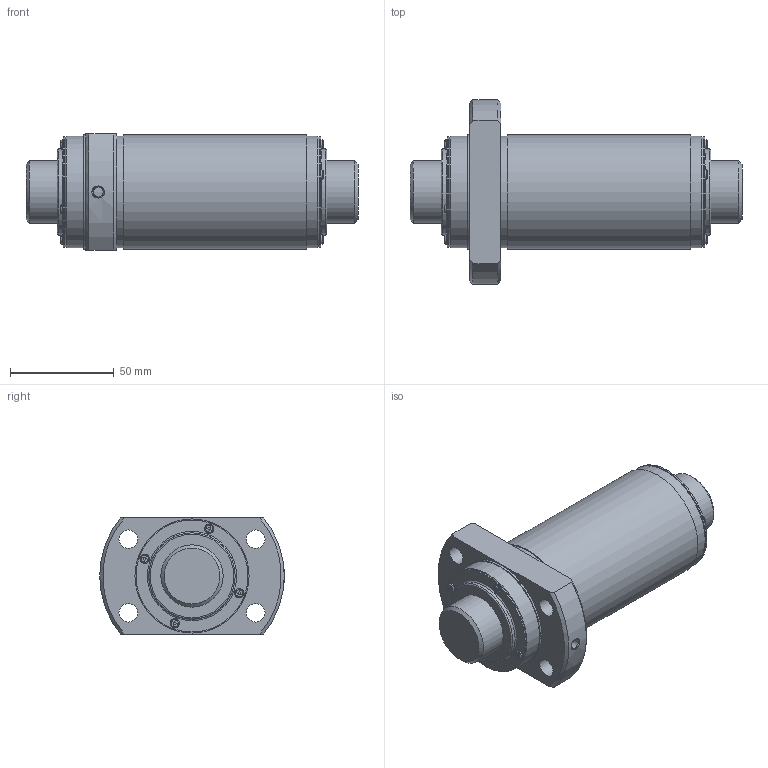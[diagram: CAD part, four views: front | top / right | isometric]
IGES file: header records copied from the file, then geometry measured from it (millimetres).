
Start section: Data from Parasolid IGES Translator 26.0.171, Copyright(c) 2006 Siemens PLM Software. All Rights Reserved.
Global section: file name: WTF3060-3ZZ+160.1LC7T_000_rev.igs; native system: By Siemens PLM Incorporated; preprocessor: XPlus GENERIC/IGES 26.0.171; author: Noname; organization: Noname; date: 20250611.064100; units: millimetre
Bounding box: 160.1 x 89 x 56 mm (x, y, z)
Surface area: 61677.6 mm2 (no closed solid volume)
Topology: 0 solids, 0 shells, 214 faces, 1080 edges, 1009 vertices
Faces by surface type: extrusion 127, revolution 87
